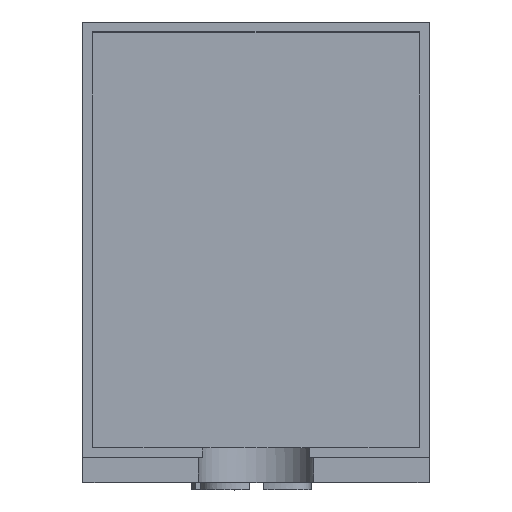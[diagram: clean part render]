
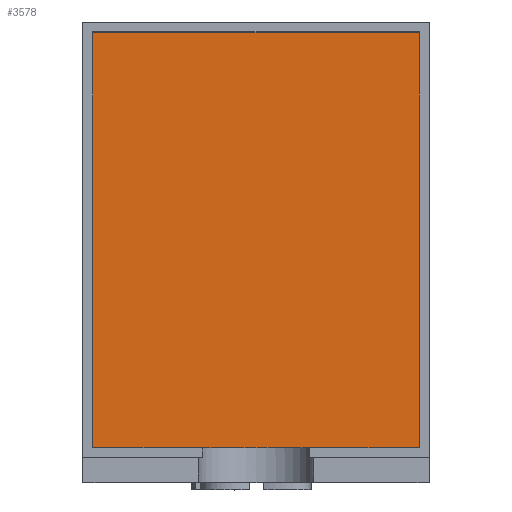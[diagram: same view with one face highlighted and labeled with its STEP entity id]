
A CAD part, top view. The second image highlights one B-rep face of the part: STEP entity #3578.
In plain terms, the highlighted planar face has unit normal (0, 0, 1).
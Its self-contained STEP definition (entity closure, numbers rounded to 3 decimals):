
#1427 = PLANE('',#1428);
#1428 = AXIS2_PLACEMENT_3D('',#1429,#1430,#1431);
#1429 = CARTESIAN_POINT('',(-19.83,1.2,1.2));
#1430 = DIRECTION('',(-0.,1.,0.));
#1431 = DIRECTION('',(0.,0.,1.));
#1453 = PLANE('',#1454);
#1454 = AXIS2_PLACEMENT_3D('',#1455,#1456,#1457);
#1455 = CARTESIAN_POINT('',(-19.83,1.2,1.2));
#1456 = DIRECTION('',(1.,0.,-0.));
#1457 = DIRECTION('',(0.,0.,1.));
#1479 = PLANE('',#1480);
#1480 = AXIS2_PLACEMENT_3D('',#1481,#1482,#1483);
#1481 = CARTESIAN_POINT('',(-19.83,51.735,1.2));
#1482 = DIRECTION('',(-0.,1.,0.));
#1483 = DIRECTION('',(0.,0.,1.));
#1505 = PLANE('',#1506);
#1506 = AXIS2_PLACEMENT_3D('',#1507,#1508,#1509);
#1507 = CARTESIAN_POINT('',(19.83,1.2,1.2));
#1508 = DIRECTION('',(1.,0.,-0.));
#1509 = DIRECTION('',(0.,0.,1.));
#3345 = VERTEX_POINT('',#3346);
#3346 = CARTESIAN_POINT('',(19.83,1.2,1.2));
#3367 = EDGE_CURVE('',#3368,#3345,#3370,.T.);
#3368 = VERTEX_POINT('',#3369);
#3369 = CARTESIAN_POINT('',(-19.83,1.2,1.2));
#3370 = SURFACE_CURVE('',#3371,(#3375,#3382),.PCURVE_S1.);
#3371 = LINE('',#3372,#3373);
#3372 = CARTESIAN_POINT('',(-19.83,1.2,1.2));
#3373 = VECTOR('',#3374,1.);
#3374 = DIRECTION('',(1.,0.,-0.));
#3375 = PCURVE('',#1427,#3376);
#3376 = DEFINITIONAL_REPRESENTATION('',(#3377),#3381);
#3377 = LINE('',#3378,#3379);
#3378 = CARTESIAN_POINT('',(0.,0.));
#3379 = VECTOR('',#3380,1.);
#3380 = DIRECTION('',(0.,1.));
#3381 = ( GEOMETRIC_REPRESENTATION_CONTEXT(2) 
PARAMETRIC_REPRESENTATION_CONTEXT() REPRESENTATION_CONTEXT('2D SPACE',''
  ) );
#3382 = PCURVE('',#3383,#3388);
#3383 = PLANE('',#3384);
#3384 = AXIS2_PLACEMENT_3D('',#3385,#3386,#3387);
#3385 = CARTESIAN_POINT('',(-19.83,1.2,1.2));
#3386 = DIRECTION('',(0.,0.,1.));
#3387 = DIRECTION('',(1.,0.,-0.));
#3388 = DEFINITIONAL_REPRESENTATION('',(#3389),#3393);
#3389 = LINE('',#3390,#3391);
#3390 = CARTESIAN_POINT('',(0.,0.));
#3391 = VECTOR('',#3392,1.);
#3392 = DIRECTION('',(1.,0.));
#3393 = ( GEOMETRIC_REPRESENTATION_CONTEXT(2) 
PARAMETRIC_REPRESENTATION_CONTEXT() REPRESENTATION_CONTEXT('2D SPACE',''
  ) );
#3423 = EDGE_CURVE('',#3345,#3424,#3426,.T.);
#3424 = VERTEX_POINT('',#3425);
#3425 = CARTESIAN_POINT('',(19.83,51.735,1.2));
#3426 = SURFACE_CURVE('',#3427,(#3431,#3438),.PCURVE_S1.);
#3427 = LINE('',#3428,#3429);
#3428 = CARTESIAN_POINT('',(19.83,1.2,1.2));
#3429 = VECTOR('',#3430,1.);
#3430 = DIRECTION('',(-0.,1.,0.));
#3431 = PCURVE('',#1505,#3432);
#3432 = DEFINITIONAL_REPRESENTATION('',(#3433),#3437);
#3433 = LINE('',#3434,#3435);
#3434 = CARTESIAN_POINT('',(0.,0.));
#3435 = VECTOR('',#3436,1.);
#3436 = DIRECTION('',(0.,-1.));
#3437 = ( GEOMETRIC_REPRESENTATION_CONTEXT(2) 
PARAMETRIC_REPRESENTATION_CONTEXT() REPRESENTATION_CONTEXT('2D SPACE',''
  ) );
#3438 = PCURVE('',#3383,#3439);
#3439 = DEFINITIONAL_REPRESENTATION('',(#3440),#3444);
#3440 = LINE('',#3441,#3442);
#3441 = CARTESIAN_POINT('',(39.659,0.));
#3442 = VECTOR('',#3443,1.);
#3443 = DIRECTION('',(0.,1.));
#3444 = ( GEOMETRIC_REPRESENTATION_CONTEXT(2) 
PARAMETRIC_REPRESENTATION_CONTEXT() REPRESENTATION_CONTEXT('2D SPACE',''
  ) );
#3472 = EDGE_CURVE('',#3473,#3424,#3475,.T.);
#3473 = VERTEX_POINT('',#3474);
#3474 = CARTESIAN_POINT('',(-19.83,51.735,1.2));
#3475 = SURFACE_CURVE('',#3476,(#3480,#3487),.PCURVE_S1.);
#3476 = LINE('',#3477,#3478);
#3477 = CARTESIAN_POINT('',(-19.83,51.735,1.2));
#3478 = VECTOR('',#3479,1.);
#3479 = DIRECTION('',(1.,0.,-0.));
#3480 = PCURVE('',#1479,#3481);
#3481 = DEFINITIONAL_REPRESENTATION('',(#3482),#3486);
#3482 = LINE('',#3483,#3484);
#3483 = CARTESIAN_POINT('',(0.,0.));
#3484 = VECTOR('',#3485,1.);
#3485 = DIRECTION('',(0.,1.));
#3486 = ( GEOMETRIC_REPRESENTATION_CONTEXT(2) 
PARAMETRIC_REPRESENTATION_CONTEXT() REPRESENTATION_CONTEXT('2D SPACE',''
  ) );
#3487 = PCURVE('',#3383,#3488);
#3488 = DEFINITIONAL_REPRESENTATION('',(#3489),#3493);
#3489 = LINE('',#3490,#3491);
#3490 = CARTESIAN_POINT('',(0.,50.535));
#3491 = VECTOR('',#3492,1.);
#3492 = DIRECTION('',(1.,0.));
#3493 = ( GEOMETRIC_REPRESENTATION_CONTEXT(2) 
PARAMETRIC_REPRESENTATION_CONTEXT() REPRESENTATION_CONTEXT('2D SPACE',''
  ) );
#3521 = EDGE_CURVE('',#3368,#3473,#3522,.T.);
#3522 = SURFACE_CURVE('',#3523,(#3527,#3534),.PCURVE_S1.);
#3523 = LINE('',#3524,#3525);
#3524 = CARTESIAN_POINT('',(-19.83,1.2,1.2));
#3525 = VECTOR('',#3526,1.);
#3526 = DIRECTION('',(-0.,1.,0.));
#3527 = PCURVE('',#1453,#3528);
#3528 = DEFINITIONAL_REPRESENTATION('',(#3529),#3533);
#3529 = LINE('',#3530,#3531);
#3530 = CARTESIAN_POINT('',(0.,0.));
#3531 = VECTOR('',#3532,1.);
#3532 = DIRECTION('',(0.,-1.));
#3533 = ( GEOMETRIC_REPRESENTATION_CONTEXT(2) 
PARAMETRIC_REPRESENTATION_CONTEXT() REPRESENTATION_CONTEXT('2D SPACE',''
  ) );
#3534 = PCURVE('',#3383,#3535);
#3535 = DEFINITIONAL_REPRESENTATION('',(#3536),#3540);
#3536 = LINE('',#3537,#3538);
#3537 = CARTESIAN_POINT('',(0.,0.));
#3538 = VECTOR('',#3539,1.);
#3539 = DIRECTION('',(0.,1.));
#3540 = ( GEOMETRIC_REPRESENTATION_CONTEXT(2) 
PARAMETRIC_REPRESENTATION_CONTEXT() REPRESENTATION_CONTEXT('2D SPACE',''
  ) );
#3578 = ADVANCED_FACE('',(#3579),#3383,.T.);
#3579 = FACE_BOUND('',#3580,.T.);
#3580 = EDGE_LOOP('',(#3581,#3582,#3583,#3584));
#3581 = ORIENTED_EDGE('',*,*,#3521,.F.);
#3582 = ORIENTED_EDGE('',*,*,#3367,.T.);
#3583 = ORIENTED_EDGE('',*,*,#3423,.T.);
#3584 = ORIENTED_EDGE('',*,*,#3472,.F.);
